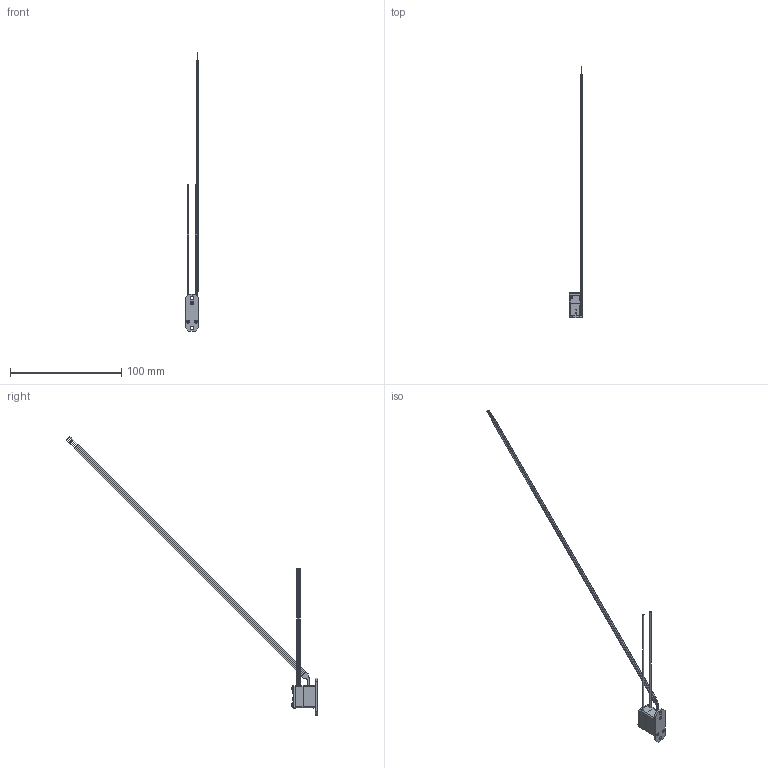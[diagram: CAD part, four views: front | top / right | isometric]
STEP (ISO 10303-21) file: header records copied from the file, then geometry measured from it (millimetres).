
FILE_DESCRIPTION (( 'STEP AP214' ), '1' );
FILE_NAME ('RP-TXxxx-.STEP', '2021-06-15T06:56:18', ( '' ), ( '' ), 'SwSTEP 2.0', 'SolidWorks 2021', '' );
FILE_SCHEMA (( 'AUTOMOTIVE_DESIGN' ));
Length unit declared in the file: millimetre
Products named in the file (11): RP-TX Base Plate AR-FU22; Screw M1.6-4; WEB—p_RP-TX Pump Case AR-CA33; Screw M2-12; WEB—pRP-TX Rotor AR-RT32; WEB—p_RP-TX Cover AR-FU21; WEB—p_RP-TX Pump Base AR-BA21A; web—p_RP-TX Tube; RP-TXxxx-; WEB用_配線; WEB—p_FPC
Assembly tree (14 placements, depth 2):
  RP-TXxxx-
    RP-TX Base Plate AR-FU22
    Screw M1.6-4  x3
    Screw M2-12  x3
    WEB—pRP-TX Rotor AR-RT32
    web—p_RP-TX Tube
    WEB—p_RP-TX Pump Base AR-BA21A
    WEB—p_RP-TX Pump Case AR-CA33
    WEB—p_RP-TX Cover AR-FU21
    WEB—p_FPC
    WEB用_配線
Bounding box: 12.27 x 225.24 x 249.73 mm (x, y, z)
Volume: 6623.8 mm3; surface area: 10506.8 mm2
Topology: 16 solids, 18 shells, 435 faces, 1029 edges, 663 vertices
Faces by surface type: plane 207, cylinder 151, torus 38, cone 30, sphere 6, bspline 3
Entity records: 10046 total; most frequent: CARTESIAN_POINT 2203, DIRECTION 1639, ORIENTED_EDGE 1434, EDGE_CURVE 717, AXIS2_PLACEMENT_3D 623, VERTEX_POINT 467, LINE 393, VECTOR 393
